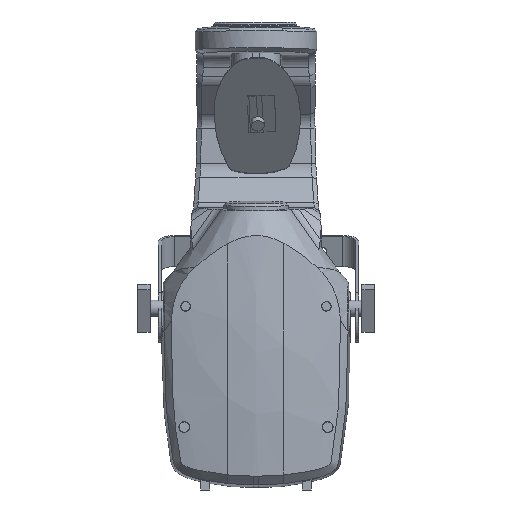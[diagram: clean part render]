
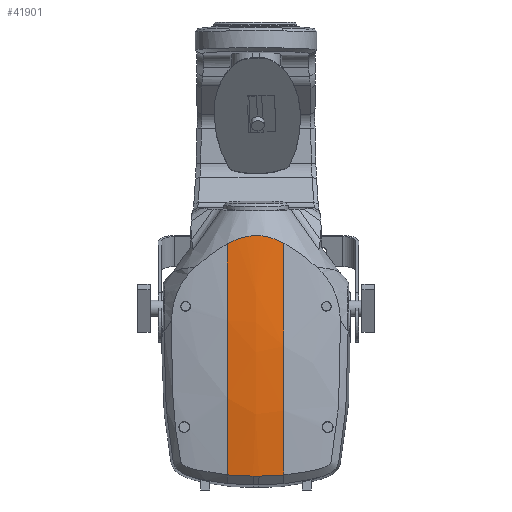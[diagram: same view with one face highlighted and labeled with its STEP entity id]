
A CAD part, left-side view. The second image highlights one B-rep face of the part: STEP entity #41901.
In plain terms, the highlighted free-form (B-spline) face has degree [3, 2] with [8, 3] control points.
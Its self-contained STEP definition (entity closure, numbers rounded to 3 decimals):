
#12392=(
BOUNDED_SURFACE()
B_SPLINE_SURFACE(3,2,((#62392,#62393,#62394),(#62395,#62396,#62397),(#62398,
#62399,#62400),(#62401,#62402,#62403),(#62404,#62405,#62406),(#62407,#62408,
#62409),(#62410,#62411,#62412),(#62413,#62414,#62415)),.UNSPECIFIED.,.F.,
 .F.,.F.)
B_SPLINE_SURFACE_WITH_KNOTS((4,1,1,1,1,4),(3,3),(1.199,1.271,
1.307,1.344,1.416,1.488),(0.,
1.),.UNSPECIFIED.)
GEOMETRIC_REPRESENTATION_ITEM()
RATIONAL_B_SPLINE_SURFACE(((1.,0.994,1.),(1.,0.994,
1.),(1.,0.994,1.),(1.,0.994,1.),(1.,0.994,
1.),(1.,0.994,1.),(1.,0.994,1.),(1.,0.994,
1.)))
REPRESENTATION_ITEM('')
SURFACE()
);
#12868=ORIENTED_EDGE('',*,*,#25240,.F.);
#12869=ORIENTED_EDGE('',*,*,#25355,.T.);
#12870=ORIENTED_EDGE('',*,*,#25356,.T.);
#12871=ORIENTED_EDGE('',*,*,#25357,.T.);
#12872=ORIENTED_EDGE('',*,*,#25233,.F.);
#12873=ORIENTED_EDGE('',*,*,#25351,.F.);
#25233=EDGE_CURVE('',#31474,#31471,#35610,.T.);
#25240=EDGE_CURVE('',#31481,#31478,#35617,.T.);
#25351=EDGE_CURVE('',#31478,#31474,#35702,.T.);
#25355=EDGE_CURVE('',#31481,#31583,#35706,.F.);
#25356=EDGE_CURVE('',#31583,#31584,#35707,.F.);
#25357=EDGE_CURVE('',#31584,#31471,#35708,.F.);
#31471=VERTEX_POINT('',#60889);
#31474=VERTEX_POINT('',#60909);
#31478=VERTEX_POINT('',#61006);
#31481=VERTEX_POINT('',#61057);
#31583=VERTEX_POINT('',#62420);
#31584=VERTEX_POINT('',#62425);
#35610=B_SPLINE_CURVE_WITH_KNOTS('',3,(#60910,#60911,#60912,#60913,#60914,
#60915,#60916,#60917),.UNSPECIFIED.,.F.,.F.,(4,1,1,1,1,4),(0.,0.091,
0.136,0.181,0.272,0.363),
 .UNSPECIFIED.);
#35617=B_SPLINE_CURVE_WITH_KNOTS('',3,(#61058,#61059,#61060,#61061,#61062,
#61063,#61064,#61065),.UNSPECIFIED.,.F.,.F.,(4,1,1,1,1,4),(0.011,
0.102,0.192,0.237,0.283,
0.373),.UNSPECIFIED.);
#35702=B_SPLINE_CURVE_WITH_KNOTS('',3,(#62359,#62360,#62361,#62362,#62363,
#62364,#62365,#62366,#62367,#62368,#62369,#62370),.UNSPECIFIED.,.F.,.F.,
(4,1,1,1,1,1,1,1,1,4),(0.,0.012,0.023,0.035,
0.04,0.046,0.058,0.069,
0.081,0.092),.UNSPECIFIED.);
#35706=B_SPLINE_CURVE_WITH_KNOTS('',3,(#62416,#62417,#62418,#62419),
 .UNSPECIFIED.,.F.,.F.,(4,4),(0.,1.),.UNSPECIFIED.);
#35707=B_SPLINE_CURVE_WITH_KNOTS('',3,(#62421,#62422,#62423,#62424),
 .UNSPECIFIED.,.F.,.F.,(4,4),(0.,1.),.UNSPECIFIED.);
#35708=B_SPLINE_CURVE_WITH_KNOTS('',3,(#62426,#62427,#62428,#62429),
 .UNSPECIFIED.,.F.,.F.,(4,4),(0.,1.),.UNSPECIFIED.);
#36437=EDGE_LOOP('',(#12868,#12869,#12870,#12871,#12872,#12873));
#39074=FACE_BOUND('',#36437,.T.);
#41901=ADVANCED_FACE('',(#39074),#12392,.T.);
#60889=CARTESIAN_POINT('',(-89.052,-43.662,-38.429));
#60909=CARTESIAN_POINT('',(-86.186,-43.662,323.613));
#60910=CARTESIAN_POINT('',(-86.186,-43.662,323.613));
#60911=CARTESIAN_POINT('',(-89.524,-43.662,293.551));
#60912=CARTESIAN_POINT('',(-93.51,-43.662,248.386));
#60913=CARTESIAN_POINT('',(-96.574,-43.662,188.006));
#60914=CARTESIAN_POINT('',(-98.062,-43.662,127.517));
#60915=CARTESIAN_POINT('',(-96.831,-43.662,52.012));
#60916=CARTESIAN_POINT('',(-92.278,-43.662,-8.352));
#60917=CARTESIAN_POINT('',(-89.052,-43.662,-38.429));
#61006=CARTESIAN_POINT('',(-86.343,44.981,322.663));
#61057=CARTESIAN_POINT('',(-89.121,44.981,-38.263));
#61058=CARTESIAN_POINT('',(-89.121,44.981,-38.263));
#61059=CARTESIAN_POINT('',(-92.333,44.981,-8.279));
#61060=CARTESIAN_POINT('',(-96.871,44.981,51.898));
#61061=CARTESIAN_POINT('',(-98.11,44.981,127.169));
#61062=CARTESIAN_POINT('',(-96.644,44.981,187.47));
#61063=CARTESIAN_POINT('',(-93.61,44.981,247.665));
#61064=CARTESIAN_POINT('',(-89.656,44.981,292.693));
#61065=CARTESIAN_POINT('',(-86.343,44.981,322.663));
#62359=CARTESIAN_POINT('',(-86.343,44.981,322.663));
#62360=CARTESIAN_POINT('',(-86.518,41.552,324.492));
#62361=CARTESIAN_POINT('',(-86.816,34.602,327.882));
#62362=CARTESIAN_POINT('',(-87.115,23.819,331.948));
#62363=CARTESIAN_POINT('',(-87.254,14.47,334.256));
#62364=CARTESIAN_POINT('',(-87.303,6.682,335.289));
#62365=CARTESIAN_POINT('',(-87.309,-1.066,335.708));
#62366=CARTESIAN_POINT('',(-87.241,-10.684,335.099));
#62367=CARTESIAN_POINT('',(-87.033,-22.198,332.599));
#62368=CARTESIAN_POINT('',(-86.694,-33.158,328.708));
#62369=CARTESIAN_POINT('',(-86.373,-40.197,325.404));
#62370=CARTESIAN_POINT('',(-86.186,-43.662,323.613));
#62392=CARTESIAN_POINT('',(-84.601,44.981,337.886));
#62393=CARTESIAN_POINT('',(-89.422,0.657,338.456));
#62394=CARTESIAN_POINT('',(-84.551,-43.662,337.88));
#62395=CARTESIAN_POINT('',(-88.126,44.981,308.07));
#62396=CARTESIAN_POINT('',(-92.955,0.657,308.569));
#62397=CARTESIAN_POINT('',(-88.076,-43.662,308.064));
#62398=CARTESIAN_POINT('',(-92.496,44.981,262.682));
#62399=CARTESIAN_POINT('',(-97.336,0.657,263.068));
#62400=CARTESIAN_POINT('',(-92.445,-43.662,262.678));
#62401=CARTESIAN_POINT('',(-96.113,44.981,200.683));
#62402=CARTESIAN_POINT('',(-100.963,0.657,200.902));
#62403=CARTESIAN_POINT('',(-96.062,-43.662,200.681));
#62404=CARTESIAN_POINT('',(-98.105,44.981,137.603));
#62405=CARTESIAN_POINT('',(-102.961,0.657,137.644));
#62406=CARTESIAN_POINT('',(-98.054,-43.662,137.602));
#62407=CARTESIAN_POINT('',(-97.254,44.981,57.13));
#62408=CARTESIAN_POINT('',(-102.107,0.657,56.928));
#62409=CARTESIAN_POINT('',(-97.203,-43.662,57.132));
#62410=CARTESIAN_POINT('',(-92.341,44.981,-9.049));
#62411=CARTESIAN_POINT('',(-97.179,0.657,-9.468));
#62412=CARTESIAN_POINT('',(-92.29,-43.662,-9.045));
#62413=CARTESIAN_POINT('',(-88.676,44.981,-42.364));
#62414=CARTESIAN_POINT('',(-93.501,0.657,-42.895));
#62415=CARTESIAN_POINT('',(-88.625,-43.662,-42.358));
#62416=CARTESIAN_POINT('',(-91.319,4.68,-40.166));
#62417=CARTESIAN_POINT('',(-91.183,18.181,-40.246));
#62418=CARTESIAN_POINT('',(-90.442,31.618,-39.674));
#62419=CARTESIAN_POINT('',(-89.121,44.981,-38.263));
#62420=CARTESIAN_POINT('',(-91.319,4.68,-40.166));
#62421=CARTESIAN_POINT('',(-91.297,-4.746,-40.168));
#62422=CARTESIAN_POINT('',(-91.343,-1.604,-40.151));
#62423=CARTESIAN_POINT('',(-91.351,1.538,-40.15));
#62424=CARTESIAN_POINT('',(-91.319,4.68,-40.166));
#62425=CARTESIAN_POINT('',(-91.297,-4.746,-40.168));
#62426=CARTESIAN_POINT('',(-89.052,-43.662,-38.429));
#62427=CARTESIAN_POINT('',(-90.349,-30.755,-39.733));
#62428=CARTESIAN_POINT('',(-91.106,-17.781,-40.251));
#62429=CARTESIAN_POINT('',(-91.297,-4.746,-40.168));
